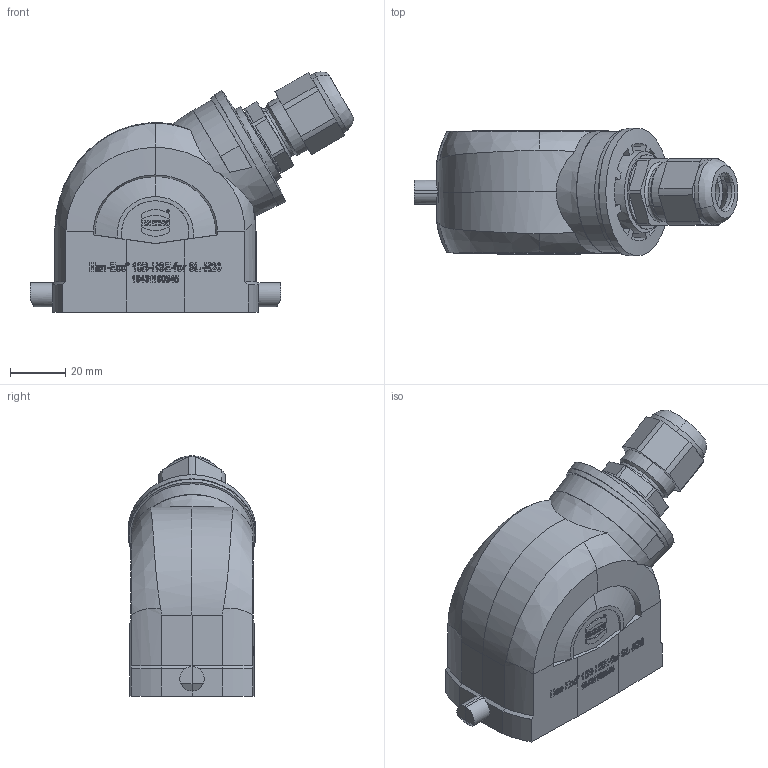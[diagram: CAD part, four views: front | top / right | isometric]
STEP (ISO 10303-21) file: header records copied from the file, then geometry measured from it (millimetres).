
FILE_DESCRIPTION(/* description */ (''),/* implementation_level */ '2;1');
FILE_NAME(/* name */ '100779496ugm000_a.stp',/* time_stamp */ '2018-05-04T10:54:58+02:00',/* author */ (''),/* organization */ (''),/* preprocessor_version */ 'ST-DEVELOPER v16.7',/* originating_system */ 'SIEMENS PLM Software NX 12.0',/* authorisation */ '');
FILE_SCHEMA (('AUTOMOTIVE_DESIGN { 1 0 10303 214 3 1 1 1 }'));
Length unit declared in the file: millimetre
Products named in the file (1): 100779496ugm000_a
Bounding box: 117.55 x 46.4 x 87.23 mm (x, y, z)
Volume: 84212.9 mm3; surface area: 43090 mm2
Topology: 1 solids, 1 shells, 658 faces, 2879 edges, 2942 vertices
Faces by surface type: plane 418, cylinder 113, cone 51, bspline 49, extrusion 15, torus 10, sphere 2
Full cylindrical faces by diameter (mm): 0.671 x2, 0.984 x2, 3 x4, 3.4 x4, 3.5 x4, 20 x1, 30 x1, 46.4 x1
Entity records: 37879 total; most frequent: CARTESIAN_POINT 13350, ORIENTED_EDGE 4370, DIRECTION 3317, EDGE_CURVE 2185, VERTEX_POINT 1653, VECTOR 1375, LINE 1360, B_SPLINE_CURVE_WITH_KNOTS 1102
